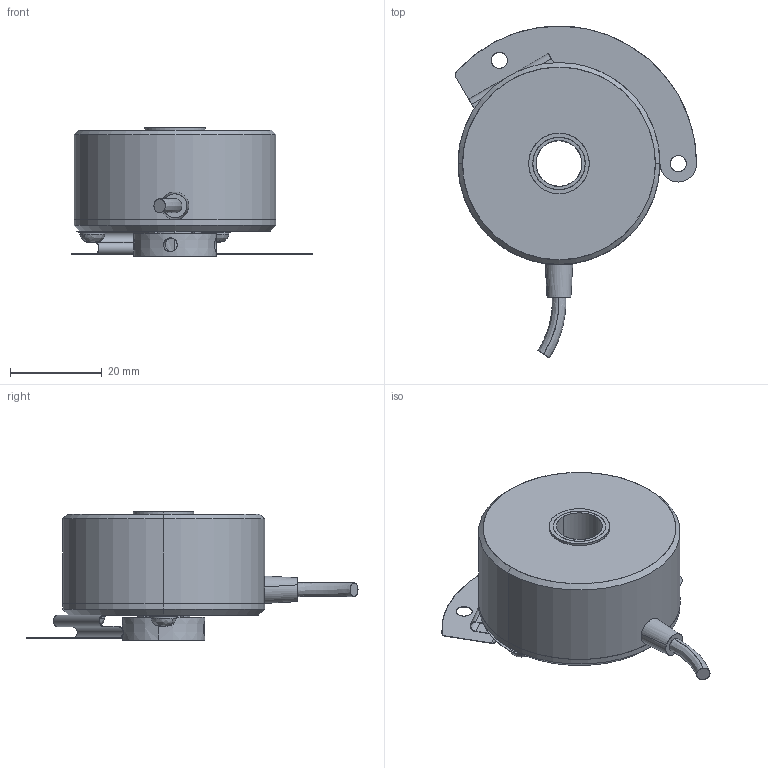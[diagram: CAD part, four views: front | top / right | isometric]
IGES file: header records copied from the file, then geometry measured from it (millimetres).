
Start section: SolidWorks IGES file using analytic representation for surfaces
Bounding box: 52.58 x 72.36 x 28 mm (x, y, z)
Surface area: 15315 mm2 (no closed solid volume)
Topology: 0 solids, 0 shells, 171 faces, 3336 edges, 3336 vertices
Faces by surface type: bspline 86, revolution 85
